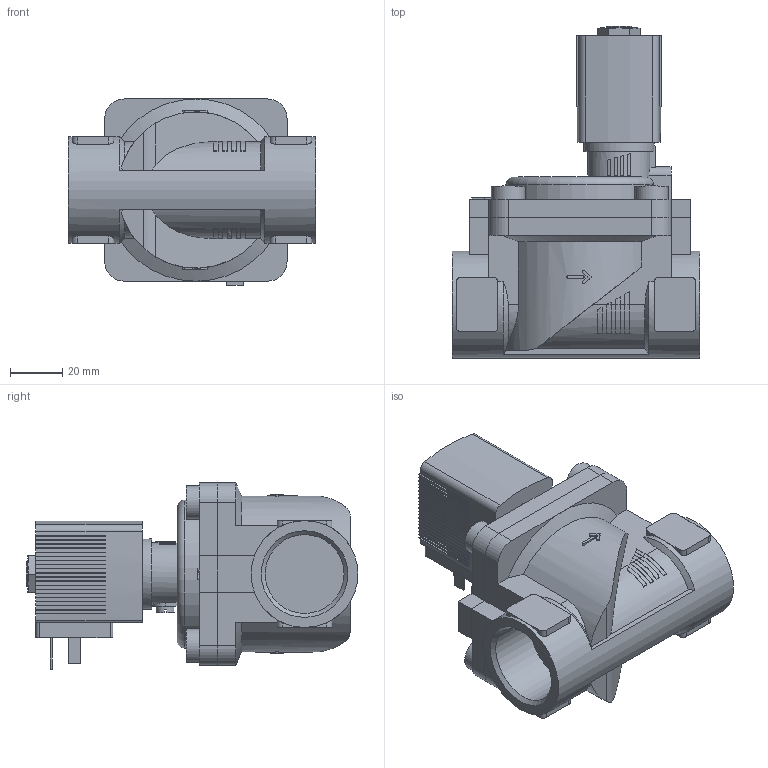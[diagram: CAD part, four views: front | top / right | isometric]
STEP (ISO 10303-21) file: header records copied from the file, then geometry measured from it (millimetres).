
FILE_DESCRIPTION(/* description */ ('STEP AP214'),/* implementation_level */ '2;1');
FILE_NAME(/* name */ '6281-340417-2_2-Way_Solenoid_Valve__Servo-assisted__General_Purpose',/* time_stamp */ '2024-09-30T08:10:56+02:00',/* author */ ('License CC BY-ND 4.0'),/* organization */ ('CADENAS'),/* preprocessor_version */ 'ST-DEVELOPER v19.3',/* originating_system */ 'PARTsolutions',/* authorisation */ ' ');
FILE_SCHEMA (('AUTOMOTIVE_DESIGN {1 0 10303 214 3 1 1}'));
Length unit declared in the file: millimetre
Products named in the file (4): 6281-340417-2/2-Way Solenoid Valve, Servo-assisted, General Purpose; 5281ev252VA2/2-Wege-Magnetventil mit Servomembran-Deckel  HA15 ; 6213-25G1VA-Gehaeuse-; AC10ex-5OO-Plan-Coil
Assembly tree (3 placements, depth 2):
  6281-340417-2/2-Way Solenoid Valve, Servo-assisted, General Purpose
    5281ev252VA2/2-Wege-Magnetventil mit Servomembran-Deckel  HA15 
    6213-25G1VA-Gehaeuse-
    AC10ex-5OO-Plan-Coil
Bounding box: 95 x 127.5 x 71.5 mm (x, y, z)
Volume: 298334.7 mm3; surface area: 55074.3 mm2
Topology: 3 solids, 3 shells, 549 faces, 1533 edges, 1016 vertices
Faces by surface type: plane 444, cylinder 89, cone 15, torus 1
Full cylindrical faces by diameter (mm): 2.013 x1, 7 x1, 9.74 x1, 13 x4, 27 x1, 30.291 x2, 41 x1
Entity records: 20195 total; most frequent: CARTESIAN_POINT 3328, ORIENTED_EDGE 3014, DIRECTION 2856, EDGE_CURVE 1507, LINE 1122, VECTOR 1122, VERTEX_POINT 1007, AXIS2_PLACEMENT_3D 867
